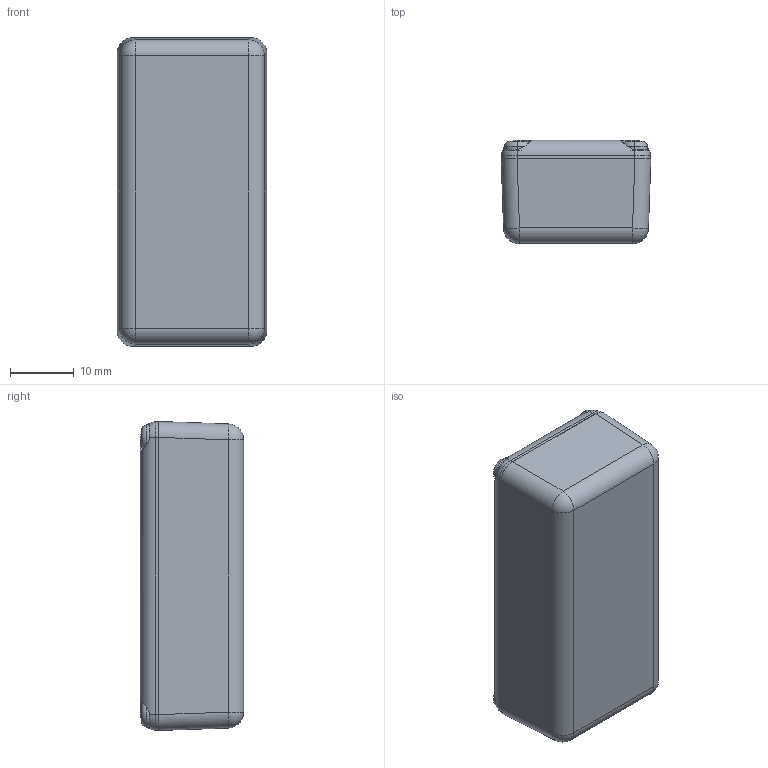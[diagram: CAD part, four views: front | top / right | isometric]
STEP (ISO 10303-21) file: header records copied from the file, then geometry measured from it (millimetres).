
FILE_DESCRIPTION (( 'STEP AP214' ), '1' );
FILE_NAME ('BMC-205L.STEP', '2021-03-31T17:45:26', ( '' ), ( '' ), 'SwSTEP 2.0', 'SolidWorks 2016', '' );
FILE_SCHEMA (( 'AUTOMOTIVE_DESIGN' ));
Length unit declared in the file: millimetre
Products named in the file (4): BMC Screw; BMC-205L; BMC 205L Bottom; BMC 205L Top
Assembly tree (6 placements, depth 2):
  BMC-205L
    BMC 205L Bottom
    BMC 205L Top
    BMC Screw  x4
Bounding box: 23.5 x 16.2 x 48.5 mm (x, y, z)
Volume: 6206.2 mm3; surface area: 9117 mm2
Topology: 6 solids, 6 shells, 918 faces, 2437 edges, 1612 vertices
Faces by surface type: plane 481, bspline 325, cylinder 66, cone 30, sphere 8, torus 8
Entity records: 40459 total; most frequent: CARTESIAN_POINT 22338, ORIENTED_EDGE 4302, DIRECTION 2589, EDGE_CURVE 2151, VERTEX_POINT 1426, VECTOR 1323, LINE 1323, EDGE_LOOP 891
